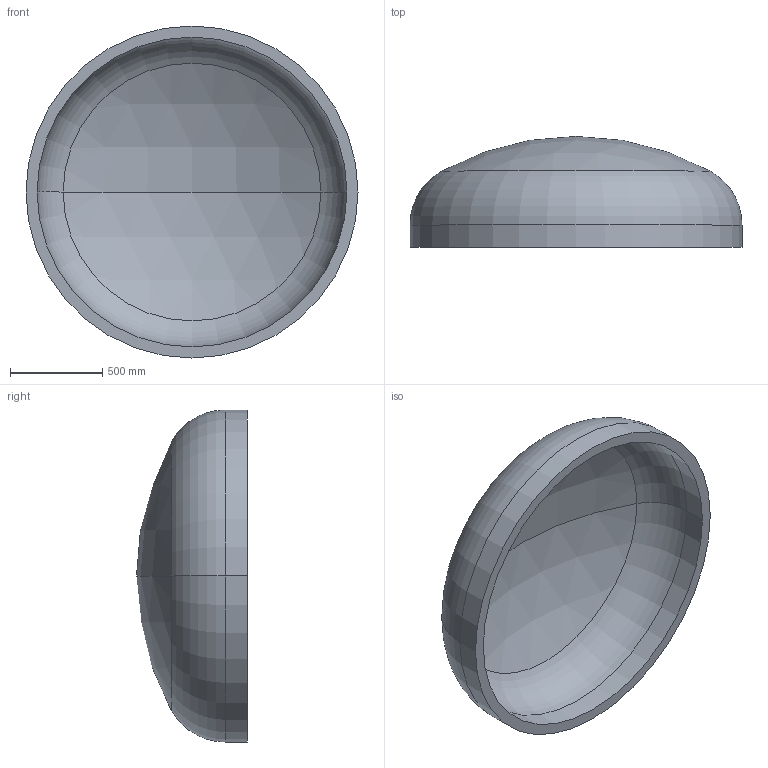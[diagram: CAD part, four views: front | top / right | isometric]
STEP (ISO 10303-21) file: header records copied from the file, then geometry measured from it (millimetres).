
FILE_DESCRIPTION (( 'STEP AP203' ), '1' );
FILE_NAME ('DIN 28013 Korbbogenform_-_Boden DIN 28013 - 1800 x 120 - I - s=60.step', '2016-07-01T12:36:02', ( '' ), ( '' ), 'SwSTEP 2.0', 'SolidWorks 2013', '' );
FILE_SCHEMA (( 'CONFIG_CONTROL_DESIGN' ));
Length unit declared in the file: millimetre
Products named in the file (1): DIN 28013 Korbbogenform_-_Boden DIN 28013 - 1800 x 120 - I - s=60
Bounding box: 1800 x 601.18 x 1800 mm (x, y, z)
Volume: 241508759.1 mm3; surface area: 8385811.7 mm2
Topology: 1 solids, 1 shells, 13 faces, 24 edges, 14 vertices
Faces by surface type: torus 4, cylinder 4, sphere 4, plane 1
Entity records: 407 total; most frequent: DIRECTION 72, CARTESIAN_POINT 52, ORIENTED_EDGE 48, AXIS2_PLACEMENT_3D 34, EDGE_CURVE 24, CIRCLE 20, EDGE_LOOP 14, VERTEX_POINT 14
